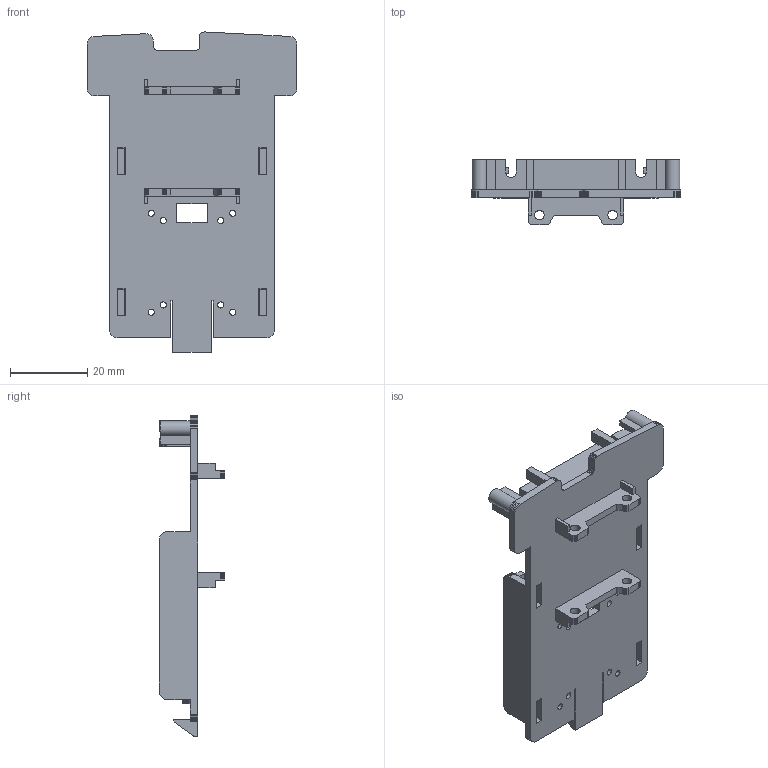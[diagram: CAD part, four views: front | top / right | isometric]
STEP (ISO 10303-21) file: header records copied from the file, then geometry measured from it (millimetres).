
FILE_DESCRIPTION(('FreeCAD Model'),'2;1');
FILE_NAME('Open CASCADE Shape Model','2026-09-09T20:58:30',('Author'),( ''),'Open CASCADE STEP processor 7.8','FreeCAD','Unknown');
FILE_SCHEMA(('AUTOMOTIVE_DESIGN { 1 0 10303 214 1 1 1 1 }'));
Length unit declared in the file: millimetre
Products named in the file (1): microduck-power-support
Bounding box: 54.47 x 17 x 83.13 mm (x, y, z)
Volume: 10789.8 mm3; surface area: 12750.1 mm2
Topology: 1 solids, 1 shells, 492 faces, 1445 edges, 970 vertices
Faces by surface type: plane 467, cylinder 25
Full cylindrical faces by diameter (mm): 1.55 x2, 1.6 x8, 2.5 x4
Entity records: 16177 total; most frequent: CARTESIAN_POINT 2908, ORIENTED_EDGE 2890, DIRECTION 2501, EDGE_CURVE 1445, LINE 1375, VECTOR 1375, VERTEX_POINT 970, AXIS2_PLACEMENT_3D 563
